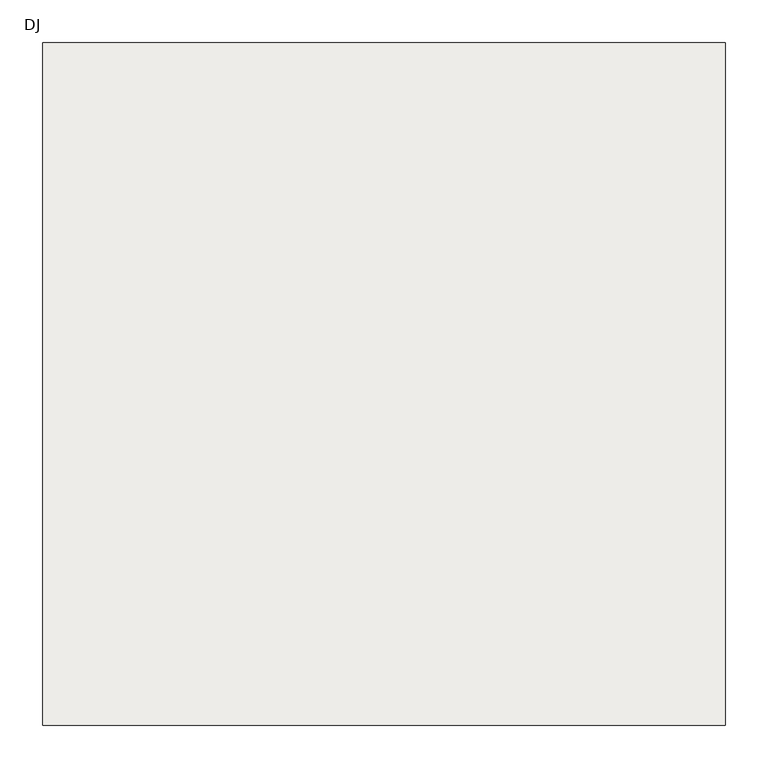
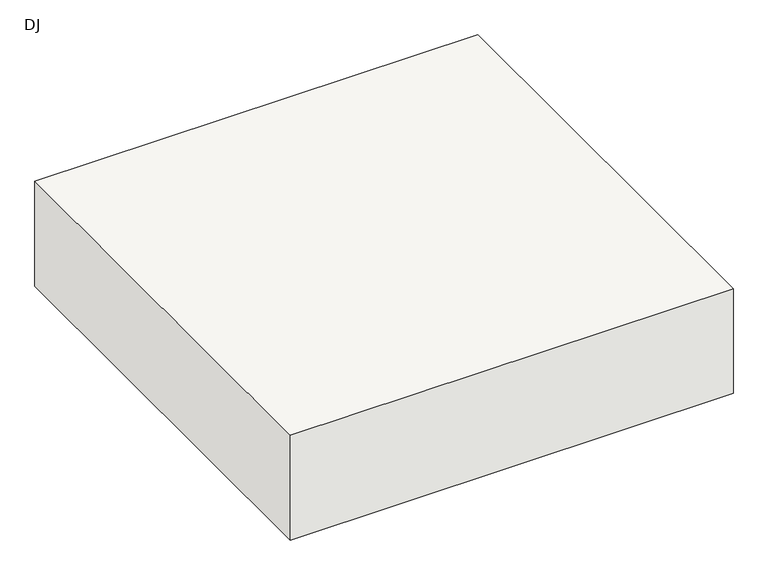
"""IFC4 building model written with IfcOpenShell, lengths in millimetres: slab geometry, 独立基础 : DJ."""

from ifc_helpers import new_model, si_unit, frame, origin, place, context, project, spatial, polyline, outline, extrude, source, transform, mapped, element, save


def dj_84b6b696(model_context):
    return source(origin(), model_context, "Body", "SweptSolid", [
        extrude(outline(polyline([(400.0, 400.0), (400.0, -400.0), (-400.0, -400.0), (-400.0, 400.0), (400.0, 400.0)])), frame((0.0, 0.0, -200.0), z_axis=(0.0, 0.0, 1.0), x_axis=(1.0, 0.0, 0.0)), (0.0, 0.0, 1.0), 200.0),
    ])


if __name__ == "__main__":
    model = new_model("IFC4")
    model_context = context("Model", 3, world=origin())
    ifc_project = project(units=[si_unit("LENGTHUNIT", "METRE", prefix="MILLI")], contexts=[model_context])
    site = spatial("IfcSite", under=ifc_project)
    building = spatial("IfcBuilding", under=site)
    placement = place(None, origin())
    dj_shape = dj_84b6b696(model_context)
    element("IfcSlab", 1, ObjectType="独立基础 : DJ", at=placement, inside=building, context=model_context, shape_type="MappedRepresentation", body=[
        mapped(dj_shape, transform((0.0, 0.0, 0.0), x_axis=(1.0, 0.0, 0.0), y_axis=(0.0, 1.0, 0.0), z_axis=(0.0, 0.0, 1.0))),
    ])
    save(model, "model.ifc")
